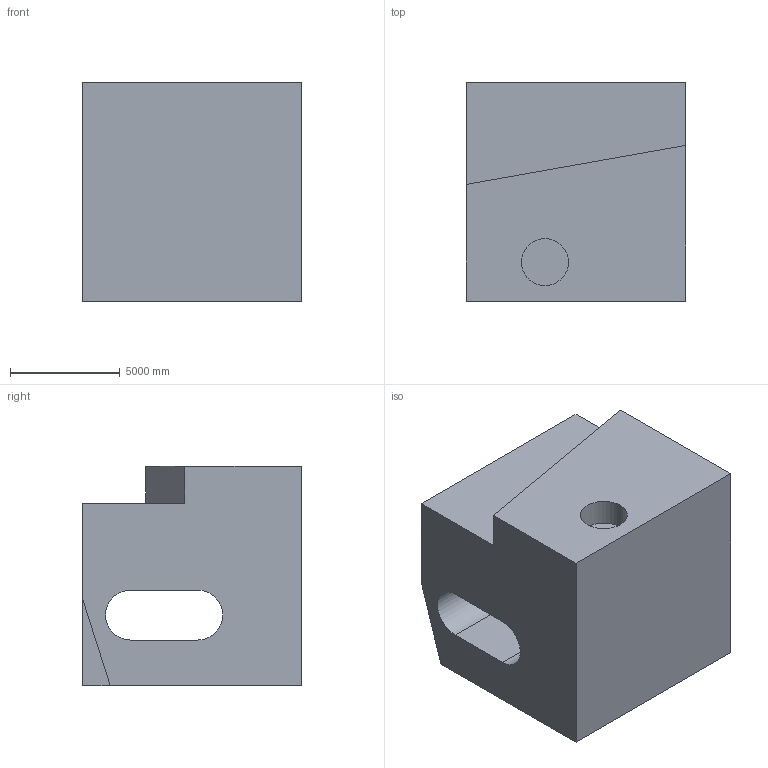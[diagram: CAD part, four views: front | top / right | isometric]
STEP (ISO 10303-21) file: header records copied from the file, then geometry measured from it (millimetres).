
FILE_DESCRIPTION (( 'STEP AP203' ), '1' );
FILE_NAME ('1307.STEP', '2022-08-18T13:40:37', ( 'user' ), ( '' ), 'SwSTEP 2.0', 'SolidWorks 2021', '' );
FILE_SCHEMA (( 'CONFIG_CONTROL_DESIGN' ));
Length unit declared in the file: centimetre
Products named in the file (1): 1307
Bounding box: 10000 x 10000 x 10000 mm (x, y, z)
Volume: 806770224417.7 mm3; surface area: 700236220.3 mm2
Topology: 1 solids, 1 shells, 17 faces, 42 edges, 28 vertices
Faces by surface type: plane 13, cylinder 4
Entity records: 585 total; most frequent: CARTESIAN_POINT 88, DIRECTION 86, ORIENTED_EDGE 84, EDGE_CURVE 42, VECTOR 34, LINE 34, VERTEX_POINT 28, AXIS2_PLACEMENT_3D 26
